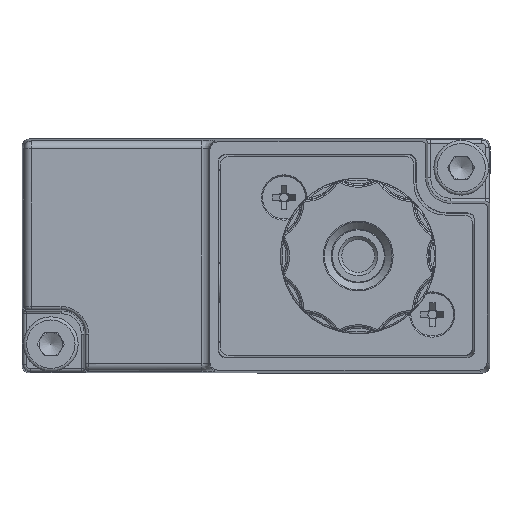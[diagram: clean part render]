
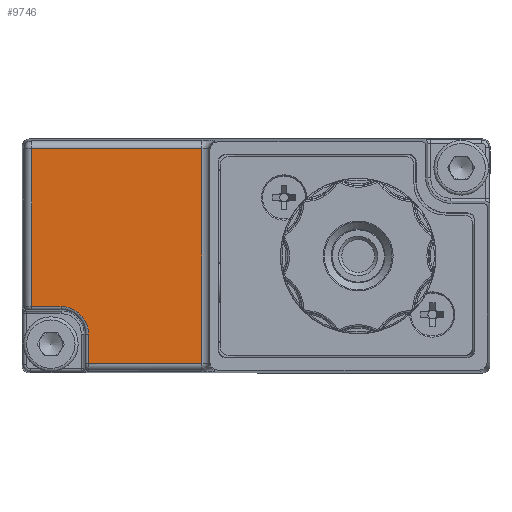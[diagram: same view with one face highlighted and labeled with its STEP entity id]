
A CAD part, left-side view. The second image highlights one B-rep face of the part: STEP entity #9746.
In plain terms, the highlighted planar face has unit normal (-1, 0, 0).
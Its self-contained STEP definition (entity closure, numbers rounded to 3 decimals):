
#1784 = CIRCLE ( 'NONE', #26782, 3.525 ) ;
#1785 = VECTOR ( 'NONE', #20191, 1000. ) ;
#1789 = LINE ( 'NONE', #20178, #1797 ) ;
#1797 = VECTOR ( 'NONE', #20173, 1000. ) ;
#1801 = LINE ( 'NONE', #20190, #1785 ) ;
#1806 = LINE ( 'NONE', #20192, #1810 ) ;
#1810 = VECTOR ( 'NONE', #20193, 1000. ) ;
#2934 = FACE_OUTER_BOUND ( 'NONE', #19931, .T. ) ;
#3341 = ORIENTED_EDGE ( 'NONE', *, *, #4224, .T. ) ;
#3350 = ORIENTED_EDGE ( 'NONE', *, *, #4223, .T. ) ;
#3542 = ORIENTED_EDGE ( 'NONE', *, *, #16012, .T. ) ;
#3544 = ORIENTED_EDGE ( 'NONE', *, *, #15691, .T. ) ;
#3545 = ORIENTED_EDGE ( 'NONE', *, *, #4219, .T. ) ;
#3549 = ORIENTED_EDGE ( 'NONE', *, *, #16011, .T. ) ;
#3550 = ORIENTED_EDGE ( 'NONE', *, *, #4218, .T. ) ;
#4218 = EDGE_CURVE ( 'NONE', #11214, #11226, #1784, .T. ) ;
#4219 = EDGE_CURVE ( 'NONE', #11167, #11218, #1789, .T. ) ;
#4223 = EDGE_CURVE ( 'NONE', #11218, #11225, #1801, .T. ) ;
#4224 = EDGE_CURVE ( 'NONE', #11225, #11214, #1806, .T. ) ;
#7695 = CARTESIAN_POINT ( 'NONE',  ( -67.1, 18.575, 0. ) ) ;
#7696 = DIRECTION ( 'NONE',  ( 0., 0., -1. ) ) ;
#7697 = CARTESIAN_POINT ( 'NONE',  ( -67.1, 3.049, -13.751 ) ) ;
#7698 = DIRECTION ( 'NONE',  ( 0., -1., 0. ) ) ;
#9746 = ADVANCED_FACE ( 'NONE', ( #2934 ), #20506, .F. ) ;
#11167 = VERTEX_POINT ( 'NONE', #11471 ) ;
#11169 = VERTEX_POINT ( 'NONE', #11473 ) ;
#11214 = VERTEX_POINT ( 'NONE', #11499 ) ;
#11218 = VERTEX_POINT ( 'NONE', #11500 ) ;
#11225 = VERTEX_POINT ( 'NONE', #11515 ) ;
#11226 = VERTEX_POINT ( 'NONE', #11516 ) ;
#11227 = VERTEX_POINT ( 'NONE', #11517 ) ;
#11471 = CARTESIAN_POINT ( 'NONE',  ( -67.1, 4.046, 13.751 ) ) ;
#11473 = CARTESIAN_POINT ( 'NONE',  ( -67.1, 4.046, -13.751 ) ) ;
#11499 = CARTESIAN_POINT ( 'NONE',  ( -67.1, 22.1, -6.475 ) ) ;
#11500 = CARTESIAN_POINT ( 'NONE',  ( -67.1, 25.851, 13.751 ) ) ;
#11515 = CARTESIAN_POINT ( 'NONE',  ( -67.1, 25.851, -6.475 ) ) ;
#11516 = CARTESIAN_POINT ( 'NONE',  ( -67.1, 18.575, -10. ) ) ;
#11517 = CARTESIAN_POINT ( 'NONE',  ( -67.1, 18.575, -13.751 ) ) ;
#11964 = AXIS2_PLACEMENT_3D ( 'NONE', #20522, #20524, #20526 ) ;
#15691 = EDGE_CURVE ( 'NONE', #11169, #11167, #16537, .T. ) ;
#16011 = EDGE_CURVE ( 'NONE', #11226, #11227, #16881, .T. ) ;
#16012 = EDGE_CURVE ( 'NONE', #11227, #11169, #16882, .T. ) ;
#16537 = LINE ( 'NONE', #23722, #16539 ) ;
#16539 = VECTOR ( 'NONE', #23723, 1000. ) ;
#16881 = LINE ( 'NONE', #7695, #16883 ) ;
#16882 = LINE ( 'NONE', #7697, #16884 ) ;
#16883 = VECTOR ( 'NONE', #7696, 1000. ) ;
#16884 = VECTOR ( 'NONE', #7698, 1000. ) ;
#19931 = EDGE_LOOP ( 'NONE', ( #3350, #3341, #3550, #3549, #3542, #3544, #3545 ) ) ;
#20173 = DIRECTION ( 'NONE',  ( 0., 1., 0. ) ) ;
#20178 = CARTESIAN_POINT ( 'NONE',  ( -67.1, 25.843, 13.751 ) ) ;
#20179 = CARTESIAN_POINT ( 'NONE',  ( -67.1, 22.1, -10. ) ) ;
#20180 = DIRECTION ( 'NONE',  ( 1., 0., 0. ) ) ;
#20181 = DIRECTION ( 'NONE',  ( 0., 0., -1. ) ) ;
#20190 = CARTESIAN_POINT ( 'NONE',  ( -67.1, 25.851, -6.872 ) ) ;
#20191 = DIRECTION ( 'NONE',  ( 0., 0., -1. ) ) ;
#20192 = CARTESIAN_POINT ( 'NONE',  ( -67.1, 0., -6.475 ) ) ;
#20193 = DIRECTION ( 'NONE',  ( 0., -1., 0. ) ) ;
#20506 = PLANE ( 'NONE',  #11964 ) ;
#20522 = CARTESIAN_POINT ( 'NONE',  ( -67.1, 0., 0. ) ) ;
#20524 = DIRECTION ( 'NONE',  ( 1., 0., 0. ) ) ;
#20526 = DIRECTION ( 'NONE',  ( 0., 0., -1. ) ) ;
#23722 = CARTESIAN_POINT ( 'NONE',  ( -67.1, 4.046, 14.743 ) ) ;
#23723 = DIRECTION ( 'NONE',  ( 0., 0., 1. ) ) ;
#26782 = AXIS2_PLACEMENT_3D ( 'NONE', #20179, #20180, #20181 ) ;
